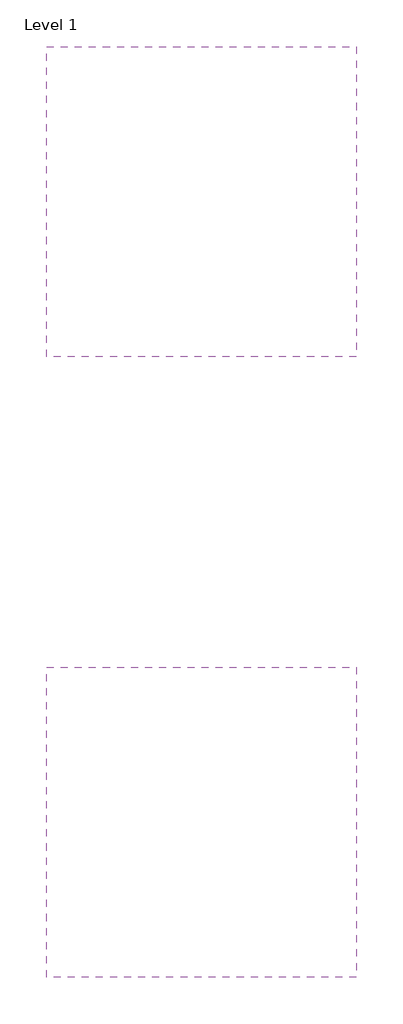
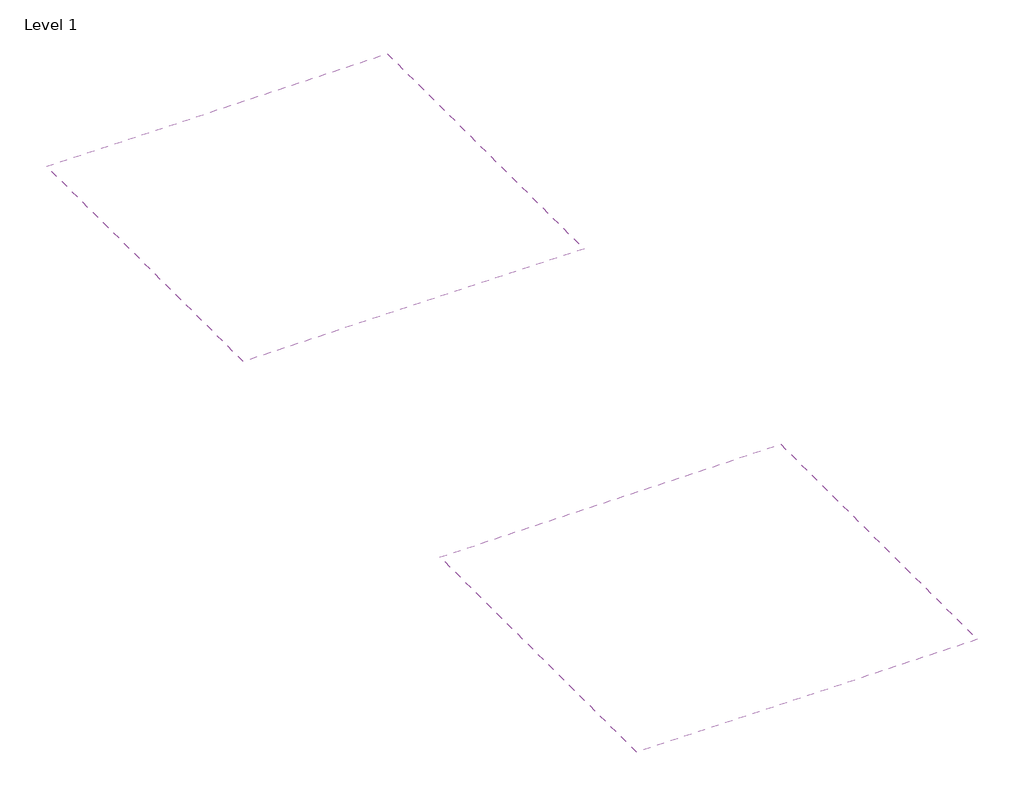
# One storey: 2 coverings.
"""IFC4 building model written with IfcOpenShell, lengths in millimetres."""

from ifc_helpers import new_model, si_unit, frame, origin, place, context, project, spatial, polyline, outline, extrude, element, save

model = new_model("IFC4")

# Units and contexts
model_context = context("Model", 3, world=origin())
ifc_project = project(units=[si_unit("LENGTHUNIT", "METRE", prefix="MILLI")], contexts=[model_context])

# Site, building, storey
site = spatial("IfcSite", under=ifc_project)
building = spatial("IfcBuilding", under=site)
storey = spatial("IfcBuildingStorey", under=building, Name="Level 1", Elevation=0.0)

# Coverings
placement = place(None, origin())
element("IfcCovering", 1, ObjectType="NBS_ArmstrongCeilingsLtd_UnitModularSuspendedCeilingSystem_PerlaOP0.95SL2-Prelude24ExposedZ-Bar_1500x300x18mm_GB", at=placement, inside=storey, context=model_context, shape_type="SweptSolid", body=[
    extrude(outline(polyline([(2500.0, 7500.0), (2500.0, 5000.0), (0.0, 5000.0), (0.0, 7500.0), (2500.0, 7500.0)])), frame((0.0, 0.0, 2600.0), z_axis=(0.0, 0.0, 1.0), x_axis=(1.0, 0.0, 0.0)), (0.0, 0.0, 1.0), 54.5),
])
element("IfcCovering", 2, ObjectType="NBS_ArmstrongCeilingsLtd_UnitModularSuspendedCeilingSystem_PerlaOP0.95SL2-Prelude24ExposedZ-Bar_1800x300x18mm_GB", at=placement, inside=storey, context=model_context, shape_type="SweptSolid", body=[
    extrude(outline(polyline([(2500.0, 2500.0), (2500.0, 0.0), (0.0, 0.0), (0.0, 2500.0), (2500.0, 2500.0)])), frame((0.0, 0.0, 2600.0), z_axis=(0.0, 0.0, 1.0), x_axis=(1.0, 0.0, 0.0)), (0.0, 0.0, 1.0), 54.5),
])

save(model, "model.ifc")
